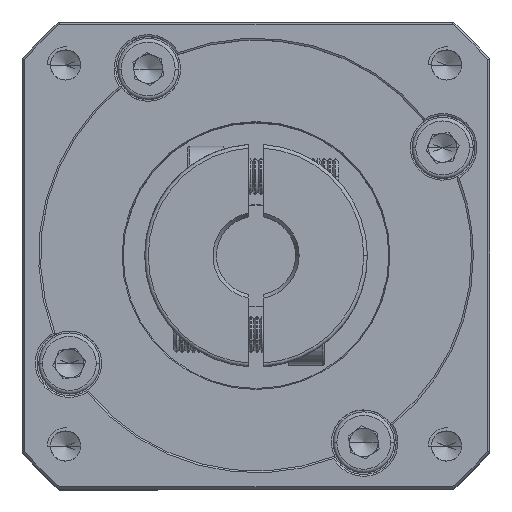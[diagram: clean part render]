
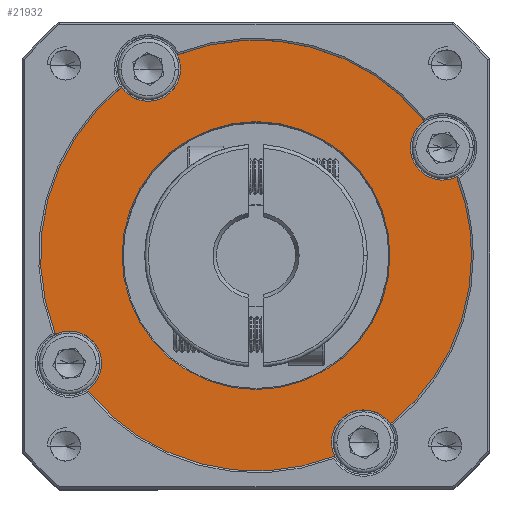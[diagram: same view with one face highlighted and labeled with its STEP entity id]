
A CAD part, top view. The second image highlights one B-rep face of the part: STEP entity #21932.
In plain terms, the highlighted planar face has unit normal (0, 0, 1).
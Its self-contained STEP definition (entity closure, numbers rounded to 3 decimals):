
#1479 = VERTEX_POINT ( 'NONE', #20724 ) ;
#1893 = VERTEX_POINT ( 'NONE', #79557 ) ;
#2531 = VERTEX_POINT ( 'NONE', #18642 ) ;
#2857 = CARTESIAN_POINT ( 'NONE',  ( -85.029, 7.252, 31.514 ) ) ;
#5620 = DIRECTION ( 'NONE',  ( 1., 0., 0. ) ) ;
#5771 = EDGE_CURVE ( 'NONE', #98741, #70206, #93488, .T. ) ;
#7235 = EDGE_CURVE ( 'NONE', #1479, #37161, #45895, .T. ) ;
#7931 = EDGE_CURVE ( 'NONE', #30950, #106684, #44206, .T. ) ;
#8470 = CARTESIAN_POINT ( 'NONE',  ( -87.565, 10.969, 31.514 ) ) ;
#9185 = AXIS2_PLACEMENT_3D ( 'NONE', #42765, #101770, #51309 ) ;
#9527 = DIRECTION ( 'NONE',  ( 0., 0., 1. ) ) ;
#11584 = CARTESIAN_POINT ( 'NONE',  ( -35.603, 40.969, 31.514 ) ) ;
#12007 = CIRCLE ( 'NONE', #27493, 4.5 ) ;
#12516 = CIRCLE ( 'NONE', #99880, 4.5 ) ;
#12788 = AXIS2_PLACEMENT_3D ( 'NONE', #45003, #103945, #53488 ) ;
#13508 = VERTEX_POINT ( 'NONE', #53863 ) ;
#13534 = CARTESIAN_POINT ( 'NONE',  ( -46.584, -0.011, 31.514 ) ) ;
#13873 = CARTESIAN_POINT ( 'NONE',  ( -89.516, 15.024, 31.514 ) ) ;
#15507 = CARTESIAN_POINT ( 'NONE',  ( -42.867, 2.525, 31.514 ) ) ;
#16833 = AXIS2_PLACEMENT_3D ( 'NONE', #27371, #86599, #35971 ) ;
#17060 = DIRECTION ( 'NONE',  ( 1., 0., 0. ) ) ;
#17879 = CARTESIAN_POINT ( 'NONE',  ( -61.584, 25.969, 31.514 ) ) ;
#17923 = AXIS2_PLACEMENT_3D ( 'NONE', #54126, #52294, #58147 ) ;
#18573 = CARTESIAN_POINT ( 'NONE',  ( -83.065, 10.969, 31.514 ) ) ;
#18642 = CARTESIAN_POINT ( 'NONE',  ( -80.229, 25.969, 31.514 ) ) ;
#20179 = DIRECTION ( 'NONE',  ( 1., 0., 0. ) ) ;
#20724 = CARTESIAN_POINT ( 'NONE',  ( -80.302, 49.414, 31.514 ) ) ;
#21276 = EDGE_LOOP ( 'NONE', ( #75652, #76849, #77034, #77458, #78320, #80081, #74769, #72977, #80229, #110066, #86533, #86347, #86029 ) ) ;
#21932 = ADVANCED_FACE ( 'NONE', ( #26694, #69180 ), #50666, .T. ) ;
#22148 = DIRECTION ( 'NONE',  ( 1., 0., 0. ) ) ;
#22289 = CARTESIAN_POINT ( 'NONE',  ( -61.584, 25.969, 31.514 ) ) ;
#22971 = EDGE_LOOP ( 'NONE', ( #74162, #75446 ) ) ;
#23234 = CARTESIAN_POINT ( 'NONE',  ( -35.603, 40.969, 31.514 ) ) ;
#26497 = DIRECTION ( 'NONE',  ( 1., 0., 0. ) ) ;
#26694 = FACE_BOUND ( 'NONE', #22971, .T. ) ;
#27371 = CARTESIAN_POINT ( 'NONE',  ( -61.584, 25.969, 31.514 ) ) ;
#27493 = AXIS2_PLACEMENT_3D ( 'NONE', #60479, #9527, #69006 ) ;
#28757 = CARTESIAN_POINT ( 'NONE',  ( -31.584, 25.969, 31.514 ) ) ;
#28968 = AXIS2_PLACEMENT_3D ( 'NONE', #8470, #68023, #17060 ) ;
#29037 = AXIS2_PLACEMENT_3D ( 'NONE', #90473, #39828, #98907 ) ;
#29046 = AXIS2_PLACEMENT_3D ( 'NONE', #104074, #103946, #103219 ) ;
#29530 = VERTEX_POINT ( 'NONE', #90314 ) ;
#30396 = AXIS2_PLACEMENT_3D ( 'NONE', #11584, #71025, #20179 ) ;
#30596 = AXIS2_PLACEMENT_3D ( 'NONE', #17879, #77273, #26497 ) ;
#30841 = DIRECTION ( 'NONE',  ( 1., 0., 0. ) ) ;
#30950 = VERTEX_POINT ( 'NONE', #15507 ) ;
#30998 = CIRCLE ( 'NONE', #28968, 4.5 ) ;
#31781 = DIRECTION ( 'NONE',  ( 1., 0., 0. ) ) ;
#33417 = CARTESIAN_POINT ( 'NONE',  ( -50.639, -1.963, 31.514 ) ) ;
#35234 = DIRECTION ( 'NONE',  ( 0., 0., 1. ) ) ;
#35468 = CARTESIAN_POINT ( 'NONE',  ( -61.584, 25.969, 31.514 ) ) ;
#35971 = DIRECTION ( 'NONE',  ( 1., 0., 0. ) ) ;
#37068 = CIRCLE ( 'NONE', #30396, 4.5 ) ;
#37161 = VERTEX_POINT ( 'NONE', #13873 ) ;
#37497 = CARTESIAN_POINT ( 'NONE',  ( -40.103, 40.969, 31.514 ) ) ;
#39828 = DIRECTION ( 'NONE',  ( 0., 0., -1. ) ) ;
#39950 = AXIS2_PLACEMENT_3D ( 'NONE', #35468, #35234, #5620 ) ;
#42505 = DIRECTION ( 'NONE',  ( 0., 0., 1. ) ) ;
#42765 = CARTESIAN_POINT ( 'NONE',  ( -76.584, 51.95, 31.514 ) ) ;
#42804 = CIRCLE ( 'NONE', #54486, 18.644 ) ;
#44206 = CIRCLE ( 'NONE', #17923, 30. ) ;
#45003 = CARTESIAN_POINT ( 'NONE',  ( -87.565, 10.969, 31.514 ) ) ;
#45538 = CARTESIAN_POINT ( 'NONE',  ( -76.584, 51.95, 31.514 ) ) ;
#45895 = CIRCLE ( 'NONE', #39950, 30. ) ;
#48824 = CARTESIAN_POINT ( 'NONE',  ( -72.084, 51.95, 31.514 ) ) ;
#49483 = CIRCLE ( 'NONE', #29037, 18.644 ) ;
#50666 = PLANE ( 'NONE',  #105233 ) ;
#51309 = DIRECTION ( 'NONE',  ( 1., 0., 0. ) ) ;
#52294 = DIRECTION ( 'NONE',  ( 0., 0., 1. ) ) ;
#53488 = DIRECTION ( 'NONE',  ( 1., 0., 0. ) ) ;
#53863 = CARTESIAN_POINT ( 'NONE',  ( -38.139, 44.687, 31.514 ) ) ;
#54044 = DIRECTION ( 'NONE',  ( 1., 0., 0. ) ) ;
#54126 = CARTESIAN_POINT ( 'NONE',  ( -61.584, 25.969, 31.514 ) ) ;
#54372 = VERTEX_POINT ( 'NONE', #18573 ) ;
#54486 = AXIS2_PLACEMENT_3D ( 'NONE', #22289, #81554, #30841 ) ;
#54887 = AXIS2_PLACEMENT_3D ( 'NONE', #45538, #104479, #54044 ) ;
#56555 = CIRCLE ( 'NONE', #30596, 30. ) ;
#56813 = EDGE_CURVE ( 'NONE', #1893, #2531, #49483, .T. ) ;
#57881 = EDGE_CURVE ( 'NONE', #68843, #70206, #66441, .T. ) ;
#58147 = DIRECTION ( 'NONE',  ( 1., 0., 0. ) ) ;
#60479 = CARTESIAN_POINT ( 'NONE',  ( -46.584, -0.011, 31.514 ) ) ;
#61893 = EDGE_CURVE ( 'NONE', #106684, #103849, #96240, .T. ) ;
#62305 = VERTEX_POINT ( 'NONE', #48824 ) ;
#66441 = CIRCLE ( 'NONE', #84503, 4.5 ) ;
#67455 = EDGE_CURVE ( 'NONE', #2531, #1893, #42804, .T. ) ;
#67612 = EDGE_CURVE ( 'NONE', #30950, #68843, #12007, .T. ) ;
#68023 = DIRECTION ( 'NONE',  ( 0., 0., 1. ) ) ;
#68271 = CARTESIAN_POINT ( 'NONE',  ( -33.652, 36.914, 31.514 ) ) ;
#68276 = EDGE_CURVE ( 'NONE', #13508, #101969, #37068, .T. ) ;
#68843 = VERTEX_POINT ( 'NONE', #88252 ) ;
#69006 = DIRECTION ( 'NONE',  ( 1., 0., 0. ) ) ;
#69180 = FACE_OUTER_BOUND ( 'NONE', #21276, .T. ) ;
#69239 = EDGE_CURVE ( 'NONE', #13508, #29530, #56555, .T. ) ;
#69714 = EDGE_CURVE ( 'NONE', #62305, #29530, #75348, .T. ) ;
#69886 = EDGE_CURVE ( 'NONE', #54372, #37161, #88456, .T. ) ;
#70206 = VERTEX_POINT ( 'NONE', #33417 ) ;
#71025 = DIRECTION ( 'NONE',  ( 0., 0., 1. ) ) ;
#72936 = DIRECTION ( 'NONE',  ( 0., 0., 1. ) ) ;
#72977 = ORIENTED_EDGE ( 'NONE', *, *, #68276, .F. ) ;
#74162 = ORIENTED_EDGE ( 'NONE', *, *, #56813, .T. ) ;
#74769 = ORIENTED_EDGE ( 'NONE', *, *, #106270, .F. ) ;
#75348 = CIRCLE ( 'NONE', #9185, 4.5 ) ;
#75446 = ORIENTED_EDGE ( 'NONE', *, *, #67455, .T. ) ;
#75652 = ORIENTED_EDGE ( 'NONE', *, *, #105223, .F. ) ;
#76849 = ORIENTED_EDGE ( 'NONE', *, *, #5771, .T. ) ;
#77034 = ORIENTED_EDGE ( 'NONE', *, *, #57881, .F. ) ;
#77273 = DIRECTION ( 'NONE',  ( 0., 0., 1. ) ) ;
#77458 = ORIENTED_EDGE ( 'NONE', *, *, #67612, .F. ) ;
#78320 = ORIENTED_EDGE ( 'NONE', *, *, #7931, .T. ) ;
#79557 = CARTESIAN_POINT ( 'NONE',  ( -42.94, 25.969, 31.514 ) ) ;
#80081 = ORIENTED_EDGE ( 'NONE', *, *, #61893, .T. ) ;
#80229 = ORIENTED_EDGE ( 'NONE', *, *, #69239, .T. ) ;
#81554 = DIRECTION ( 'NONE',  ( 0., 0., -1. ) ) ;
#82439 = DIRECTION ( 'NONE',  ( 0., 0., 1. ) ) ;
#84503 = AXIS2_PLACEMENT_3D ( 'NONE', #13534, #72936, #22148 ) ;
#86029 = ORIENTED_EDGE ( 'NONE', *, *, #69886, .F. ) ;
#86347 = ORIENTED_EDGE ( 'NONE', *, *, #7235, .T. ) ;
#86533 = ORIENTED_EDGE ( 'NONE', *, *, #100921, .F. ) ;
#86599 = DIRECTION ( 'NONE',  ( 0., 0., 1. ) ) ;
#88252 = CARTESIAN_POINT ( 'NONE',  ( -51.084, -0.011, 31.514 ) ) ;
#88456 = CIRCLE ( 'NONE', #12788, 4.5 ) ;
#90314 = CARTESIAN_POINT ( 'NONE',  ( -72.529, 53.902, 31.514 ) ) ;
#90473 = CARTESIAN_POINT ( 'NONE',  ( -61.584, 25.969, 31.514 ) ) ;
#93077 = CARTESIAN_POINT ( 'NONE',  ( -61.584, 25.969, 31.514 ) ) ;
#93488 = CIRCLE ( 'NONE', #29046, 30. ) ;
#96240 = CIRCLE ( 'NONE', #16833, 30. ) ;
#98172 = CIRCLE ( 'NONE', #54887, 4.5 ) ;
#98741 = VERTEX_POINT ( 'NONE', #2857 ) ;
#98907 = DIRECTION ( 'NONE',  ( 1., 0., 0. ) ) ;
#99880 = AXIS2_PLACEMENT_3D ( 'NONE', #23234, #82439, #31781 ) ;
#100921 = EDGE_CURVE ( 'NONE', #1479, #62305, #98172, .T. ) ;
#101519 = DIRECTION ( 'NONE',  ( 1., 0., 0. ) ) ;
#101770 = DIRECTION ( 'NONE',  ( 0., 0., 1. ) ) ;
#101969 = VERTEX_POINT ( 'NONE', #37497 ) ;
#103219 = DIRECTION ( 'NONE',  ( 1., 0., 0. ) ) ;
#103849 = VERTEX_POINT ( 'NONE', #68271 ) ;
#103945 = DIRECTION ( 'NONE',  ( 0., 0., 1. ) ) ;
#103946 = DIRECTION ( 'NONE',  ( 0., 0., 1. ) ) ;
#104074 = CARTESIAN_POINT ( 'NONE',  ( -61.584, 25.969, 31.514 ) ) ;
#104479 = DIRECTION ( 'NONE',  ( 0., 0., 1. ) ) ;
#105223 = EDGE_CURVE ( 'NONE', #98741, #54372, #30998, .T. ) ;
#105233 = AXIS2_PLACEMENT_3D ( 'NONE', #93077, #42505, #101519 ) ;
#106270 = EDGE_CURVE ( 'NONE', #101969, #103849, #12516, .T. ) ;
#106684 = VERTEX_POINT ( 'NONE', #28757 ) ;
#110066 = ORIENTED_EDGE ( 'NONE', *, *, #69714, .F. ) ;
